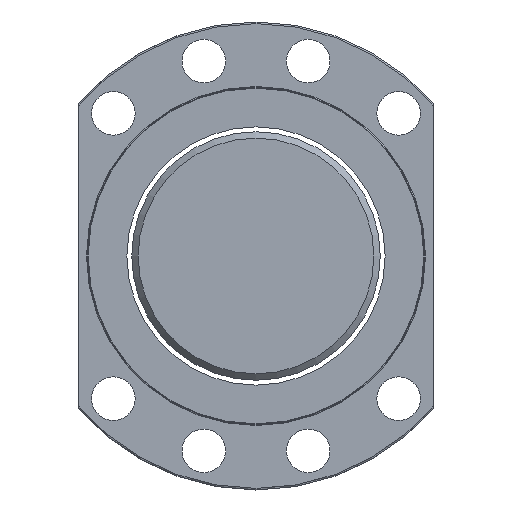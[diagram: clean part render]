
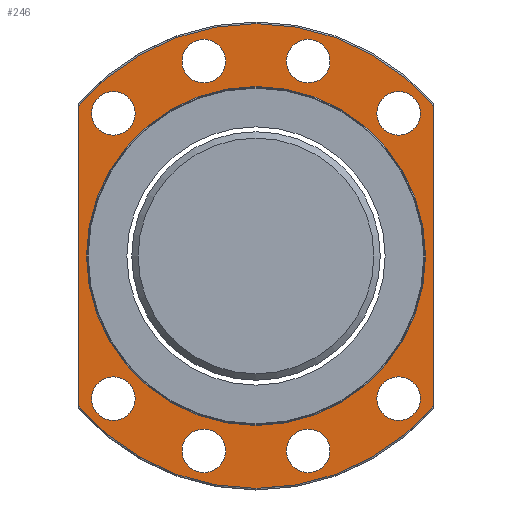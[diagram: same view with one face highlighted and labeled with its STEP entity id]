
A CAD part, left-side view. The second image highlights one B-rep face of the part: STEP entity #246.
In plain terms, the highlighted planar face has unit normal (-1, 0, 0).
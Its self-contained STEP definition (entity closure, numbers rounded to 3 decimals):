
#109=PLANE('',#786);
#125=FACE_BOUND('',#329,.T.);
#126=FACE_BOUND('',#330,.T.);
#127=FACE_BOUND('',#331,.T.);
#128=FACE_BOUND('',#332,.T.);
#129=FACE_BOUND('',#333,.T.);
#130=FACE_BOUND('',#334,.T.);
#131=FACE_BOUND('',#335,.T.);
#132=FACE_BOUND('',#336,.T.);
#133=FACE_BOUND('',#337,.T.);
#229=LINE('',#1185,#237);
#230=LINE('',#1187,#238);
#237=VECTOR('',#891,1.);
#238=VECTOR('',#892,1.);
#246=ADVANCED_FACE('',(#304,#125,#126,#127,#128,#129,#130,#131,#132,#133),
#109,.T.);
#304=FACE_OUTER_BOUND('',#328,.T.);
#328=EDGE_LOOP('',(#496,#497,#498,#499));
#329=EDGE_LOOP('',(#500));
#330=EDGE_LOOP('',(#501));
#331=EDGE_LOOP('',(#502));
#332=EDGE_LOOP('',(#503));
#333=EDGE_LOOP('',(#504));
#334=EDGE_LOOP('',(#505));
#335=EDGE_LOOP('',(#506));
#336=EDGE_LOOP('',(#507));
#337=EDGE_LOOP('',(#508));
#430=CIRCLE('',#770,72.);
#433=CIRCLE('',#776,72.);
#434=CIRCLE('',#777,52.5);
#435=CIRCLE('',#778,6.75);
#436=CIRCLE('',#779,6.75);
#437=CIRCLE('',#780,6.75);
#438=CIRCLE('',#781,6.75);
#439=CIRCLE('',#782,6.75);
#440=CIRCLE('',#783,6.75);
#441=CIRCLE('',#784,6.75);
#442=CIRCLE('',#785,6.75);
#496=ORIENTED_EDGE('',*,*,#699,.F.);
#497=ORIENTED_EDGE('',*,*,#692,.F.);
#498=ORIENTED_EDGE('',*,*,#700,.T.);
#499=ORIENTED_EDGE('',*,*,#701,.F.);
#500=ORIENTED_EDGE('',*,*,#702,.T.);
#501=ORIENTED_EDGE('',*,*,#703,.F.);
#502=ORIENTED_EDGE('',*,*,#704,.F.);
#503=ORIENTED_EDGE('',*,*,#705,.F.);
#504=ORIENTED_EDGE('',*,*,#706,.F.);
#505=ORIENTED_EDGE('',*,*,#707,.F.);
#506=ORIENTED_EDGE('',*,*,#708,.F.);
#507=ORIENTED_EDGE('',*,*,#709,.F.);
#508=ORIENTED_EDGE('',*,*,#710,.F.);
#627=VERTEX_POINT('',#1112);
#629=VERTEX_POINT('',#1134);
#634=VERTEX_POINT('',#1186);
#635=VERTEX_POINT('',#1188);
#636=VERTEX_POINT('',#1191);
#637=VERTEX_POINT('',#1193);
#638=VERTEX_POINT('',#1195);
#639=VERTEX_POINT('',#1197);
#640=VERTEX_POINT('',#1199);
#641=VERTEX_POINT('',#1201);
#642=VERTEX_POINT('',#1203);
#643=VERTEX_POINT('',#1205);
#644=VERTEX_POINT('',#1207);
#692=EDGE_CURVE('',#629,#627,#430,.T.);
#699=EDGE_CURVE('',#627,#634,#229,.T.);
#700=EDGE_CURVE('',#629,#635,#230,.T.);
#701=EDGE_CURVE('',#634,#635,#433,.T.);
#702=EDGE_CURVE('',#636,#636,#434,.T.);
#703=EDGE_CURVE('',#637,#637,#435,.T.);
#704=EDGE_CURVE('',#638,#638,#436,.T.);
#705=EDGE_CURVE('',#639,#639,#437,.T.);
#706=EDGE_CURVE('',#640,#640,#438,.T.);
#707=EDGE_CURVE('',#641,#641,#439,.T.);
#708=EDGE_CURVE('',#642,#642,#440,.T.);
#709=EDGE_CURVE('',#643,#643,#441,.T.);
#710=EDGE_CURVE('',#644,#644,#442,.T.);
#770=AXIS2_PLACEMENT_3D('',#1135,#877,#878);
#776=AXIS2_PLACEMENT_3D('',#1189,#893,#894);
#777=AXIS2_PLACEMENT_3D('',#1190,#895,#896);
#778=AXIS2_PLACEMENT_3D('',#1192,#897,#898);
#779=AXIS2_PLACEMENT_3D('',#1194,#899,#900);
#780=AXIS2_PLACEMENT_3D('',#1196,#901,#902);
#781=AXIS2_PLACEMENT_3D('',#1198,#903,#904);
#782=AXIS2_PLACEMENT_3D('',#1200,#905,#906);
#783=AXIS2_PLACEMENT_3D('',#1202,#907,#908);
#784=AXIS2_PLACEMENT_3D('',#1204,#909,#910);
#785=AXIS2_PLACEMENT_3D('',#1206,#911,#912);
#786=AXIS2_PLACEMENT_3D('',#1208,#913,#914);
#877=DIRECTION('',(1.,0.,0.));
#878=DIRECTION('',(0.,1.,0.));
#891=DIRECTION('',(0.,0.,1.));
#892=DIRECTION('',(0.,0.,1.));
#893=DIRECTION('',(1.,0.,0.));
#894=DIRECTION('',(0.,1.,0.));
#895=DIRECTION('',(1.,0.,0.));
#896=DIRECTION('',(0.,1.,0.));
#897=DIRECTION('',(-1.,0.,0.));
#898=DIRECTION('',(0.,-1.,0.));
#899=DIRECTION('',(-1.,0.,0.));
#900=DIRECTION('',(0.,-1.,0.));
#901=DIRECTION('',(-1.,0.,0.));
#902=DIRECTION('',(0.,-1.,0.));
#903=DIRECTION('',(-1.,0.,0.));
#904=DIRECTION('',(0.,-1.,0.));
#905=DIRECTION('',(-1.,0.,0.));
#906=DIRECTION('',(0.,-1.,0.));
#907=DIRECTION('',(-1.,0.,0.));
#908=DIRECTION('',(0.,-1.,0.));
#909=DIRECTION('',(-1.,0.,0.));
#910=DIRECTION('',(0.,-1.,0.));
#911=DIRECTION('',(-1.,0.,0.));
#912=DIRECTION('',(0.,-1.,0.));
#913=DIRECTION('',(-1.,0.,0.));
#914=DIRECTION('',(0.,-1.,0.));
#1112=CARTESIAN_POINT('',(-45.,55.,-46.465));
#1134=CARTESIAN_POINT('',(-45.,-55.,-46.465));
#1135=CARTESIAN_POINT('',(-45.,0.,0.));
#1185=CARTESIAN_POINT('',(-45.,55.,0.));
#1186=CARTESIAN_POINT('',(-45.,55.,46.465));
#1187=CARTESIAN_POINT('',(-45.,-55.,0.));
#1188=CARTESIAN_POINT('',(-45.,-55.,46.465));
#1189=CARTESIAN_POINT('',(-45.,0.,0.));
#1190=CARTESIAN_POINT('',(-45.,0.,0.));
#1191=CARTESIAN_POINT('',(-45.,52.5,0.));
#1192=CARTESIAN_POINT('',(-45.,16.176,60.37));
#1193=CARTESIAN_POINT('',(-45.,9.426,60.37));
#1194=CARTESIAN_POINT('',(-45.,-16.176,60.37));
#1195=CARTESIAN_POINT('',(-45.,-22.926,60.37));
#1196=CARTESIAN_POINT('',(-45.,-16.176,-60.37));
#1197=CARTESIAN_POINT('',(-45.,-22.926,-60.37));
#1198=CARTESIAN_POINT('',(-45.,16.176,-60.37));
#1199=CARTESIAN_POINT('',(-45.,9.426,-60.37));
#1200=CARTESIAN_POINT('',(-45.,-44.194,44.194));
#1201=CARTESIAN_POINT('',(-45.,-50.944,44.194));
#1202=CARTESIAN_POINT('',(-45.,-44.194,-44.194));
#1203=CARTESIAN_POINT('',(-45.,-50.944,-44.194));
#1204=CARTESIAN_POINT('',(-45.,44.194,44.194));
#1205=CARTESIAN_POINT('',(-45.,37.444,44.194));
#1206=CARTESIAN_POINT('',(-45.,44.194,-44.194));
#1207=CARTESIAN_POINT('',(-45.,37.444,-44.194));
#1208=CARTESIAN_POINT('',(-45.,62.25,0.));
